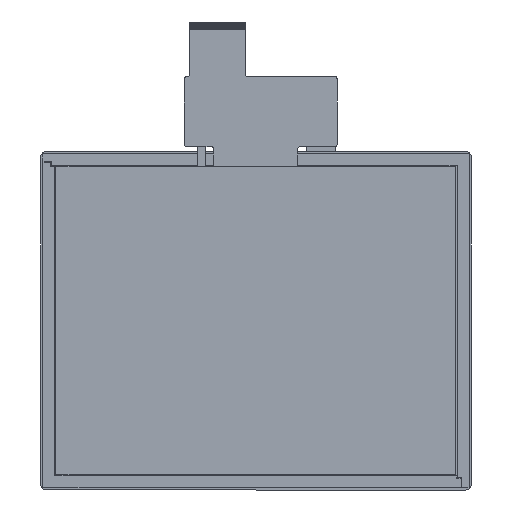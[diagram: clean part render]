
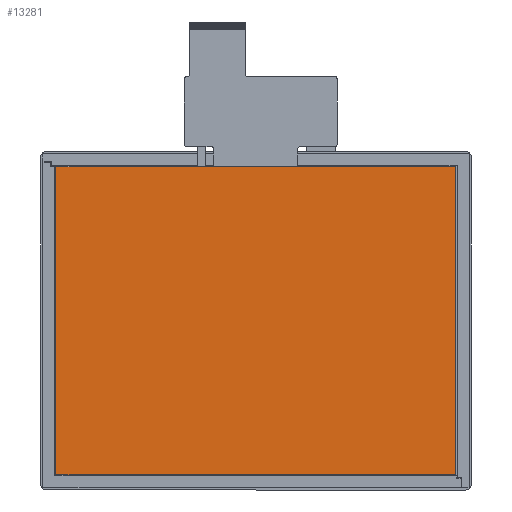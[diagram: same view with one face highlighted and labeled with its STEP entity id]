
A CAD part, front view. The second image highlights one B-rep face of the part: STEP entity #13281.
In plain terms, the highlighted planar face has unit normal (0, -1, 0).
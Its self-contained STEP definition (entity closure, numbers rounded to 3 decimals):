
#436 = CARTESIAN_POINT ( 'NONE',  ( 183.002, -5.6, -141. ) ) ;
#1436 = LINE ( 'NONE', #15621, #15208 ) ;
#3692 = EDGE_LOOP ( 'NONE', ( #14802, #11078, #13583, #12988 ) ) ;
#4452 = FACE_OUTER_BOUND ( 'NONE', #3692, .T. ) ;
#4606 = CARTESIAN_POINT ( 'NONE',  ( 183.002, -5.6, 0. ) ) ;
#4839 = VERTEX_POINT ( 'NONE', #4606 ) ;
#5384 = DIRECTION ( 'NONE',  ( 1., 0., 0. ) ) ;
#5991 = DIRECTION ( 'NONE',  ( 0., 1., 0. ) ) ;
#6232 = LINE ( 'NONE', #8108, #12912 ) ;
#6746 = CARTESIAN_POINT ( 'NONE',  ( 183.002, -5.6, -141. ) ) ;
#7584 = VERTEX_POINT ( 'NONE', #8473 ) ;
#8009 = DIRECTION ( 'NONE',  ( -1., 0., 0. ) ) ;
#8108 = CARTESIAN_POINT ( 'NONE',  ( 0.002, -5.6, 0. ) ) ;
#8307 = AXIS2_PLACEMENT_3D ( 'NONE', #13971, #5991, #15320 ) ;
#8473 = CARTESIAN_POINT ( 'NONE',  ( 0.002, -5.6, 0. ) ) ;
#8646 = PLANE ( 'NONE',  #8307 ) ;
#8670 = EDGE_CURVE ( 'NONE', #4839, #9354, #14179, .T. ) ;
#8692 = CARTESIAN_POINT ( 'NONE',  ( 0.002, -5.6, -141. ) ) ;
#8929 = VERTEX_POINT ( 'NONE', #8692 ) ;
#9209 = EDGE_CURVE ( 'NONE', #9354, #8929, #12903, .T. ) ;
#9354 = VERTEX_POINT ( 'NONE', #436 ) ;
#10992 = EDGE_CURVE ( 'NONE', #7584, #4839, #6232, .T. ) ;
#11078 = ORIENTED_EDGE ( 'NONE', *, *, #8670, .F. ) ;
#11672 = DIRECTION ( 'NONE',  ( 0., 0., 1. ) ) ;
#12903 = LINE ( 'NONE', #6746, #16453 ) ;
#12912 = VECTOR ( 'NONE', #5384, 1000. ) ;
#12988 = ORIENTED_EDGE ( 'NONE', *, *, #14294, .F. ) ;
#13281 = ADVANCED_FACE ( 'NONE', ( #4452 ), #8646, .F. ) ;
#13397 = DIRECTION ( 'NONE',  ( 0., 0., -1. ) ) ;
#13583 = ORIENTED_EDGE ( 'NONE', *, *, #10992, .F. ) ;
#13794 = VECTOR ( 'NONE', #13397, 1000. ) ;
#13971 = CARTESIAN_POINT ( 'NONE',  ( 0., -5.6, 0. ) ) ;
#14179 = LINE ( 'NONE', #14708, #13794 ) ;
#14294 = EDGE_CURVE ( 'NONE', #8929, #7584, #1436, .T. ) ;
#14708 = CARTESIAN_POINT ( 'NONE',  ( 183.002, -5.6, 0. ) ) ;
#14802 = ORIENTED_EDGE ( 'NONE', *, *, #9209, .F. ) ;
#15208 = VECTOR ( 'NONE', #11672, 1000. ) ;
#15320 = DIRECTION ( 'NONE',  ( 0., 0., 1. ) ) ;
#15621 = CARTESIAN_POINT ( 'NONE',  ( 0.002, -5.6, -141. ) ) ;
#16453 = VECTOR ( 'NONE', #8009, 1000. ) ;
